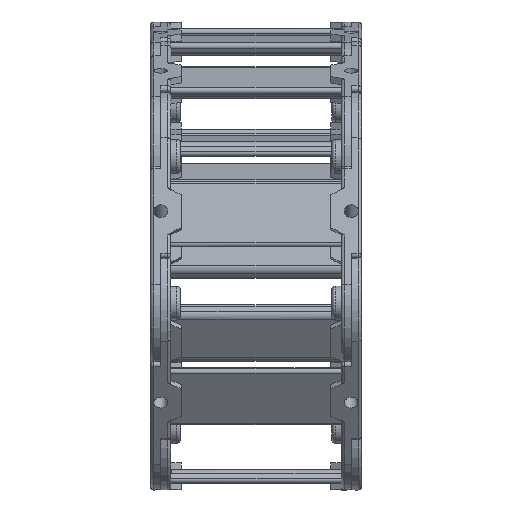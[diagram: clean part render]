
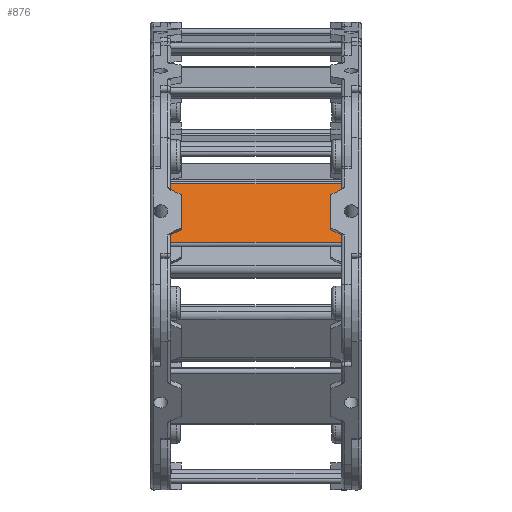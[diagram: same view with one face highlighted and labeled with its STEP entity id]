
A CAD part, front view. The second image highlights one B-rep face of the part: STEP entity #876.
In plain terms, the highlighted planar face has unit normal (0, -0.956, 0.292) as drawn and (0, 0, -1) by its records, which use the part's own axes.
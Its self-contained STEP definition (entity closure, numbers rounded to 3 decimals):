
#773=CARTESIAN_POINT('',(-64.6,-18.,-33.5));
#774=DIRECTION('',(0.0,0.0,-1.0));
#775=DIRECTION('',(-1.0,0.0,0.0));
#776=AXIS2_PLACEMENT_3D('',#773,#774,#775);
#777=PLANE('',#776);
#778=CARTESIAN_POINT('',(50.,13.464,-33.5));
#779=VERTEX_POINT('',#778);
#780=CARTESIAN_POINT('',(44.,10.0,-33.5));
#781=VERTEX_POINT('',#780);
#782=CARTESIAN_POINT('',(50.,13.464,-33.5));
#783=DIRECTION('',(-0.866,-0.5,0.0));
#784=VECTOR('',#783,6.928);
#785=LINE('',#782,#784);
#786=EDGE_CURVE('',#779,#781,#785,.T.);
#787=ORIENTED_EDGE('',*,*,#786,.T.);
#788=CARTESIAN_POINT('',(44.,-10.,-33.5));
#789=VERTEX_POINT('',#788);
#790=CARTESIAN_POINT('',(44.,10.0,-33.5));
#791=DIRECTION('',(0.0,-1.0,0.0));
#792=VECTOR('',#791,20.);
#793=LINE('',#790,#792);
#794=EDGE_CURVE('',#781,#789,#793,.T.);
#795=ORIENTED_EDGE('',*,*,#794,.T.);
#796=CARTESIAN_POINT('',(50.,-13.464,-33.5));
#797=VERTEX_POINT('',#796);
#798=CARTESIAN_POINT('',(44.,-10.,-33.5));
#799=DIRECTION('',(0.866,-0.5,0.0));
#800=VECTOR('',#799,6.928);
#801=LINE('',#798,#800);
#802=EDGE_CURVE('',#789,#797,#801,.T.);
#803=ORIENTED_EDGE('',*,*,#802,.T.);
#804=CARTESIAN_POINT('',(50.,-18.,-33.5));
#805=VERTEX_POINT('',#804);
#806=CARTESIAN_POINT('',(50.,-18.,-33.5));
#807=DIRECTION('',(0.0,1.0,0.0));
#808=VECTOR('',#807,4.536);
#809=LINE('',#806,#808);
#810=EDGE_CURVE('',#805,#797,#809,.T.);
#811=ORIENTED_EDGE('',*,*,#810,.F.);
#812=CARTESIAN_POINT('',(-50.,-18.,-33.5));
#813=VERTEX_POINT('',#812);
#814=CARTESIAN_POINT('',(50.,-18.,-33.5));
#815=DIRECTION('',(-1.0,0.0,0.0));
#816=VECTOR('',#815,100.0);
#817=LINE('',#814,#816);
#818=EDGE_CURVE('',#805,#813,#817,.T.);
#819=ORIENTED_EDGE('',*,*,#818,.T.);
#820=CARTESIAN_POINT('',(-50.,-13.464,-33.5));
#821=VERTEX_POINT('',#820);
#822=CARTESIAN_POINT('',(-50.,-13.464,-33.5));
#823=DIRECTION('',(0.0,-1.0,0.0));
#824=VECTOR('',#823,4.536);
#825=LINE('',#822,#824);
#826=EDGE_CURVE('',#821,#813,#825,.T.);
#827=ORIENTED_EDGE('',*,*,#826,.F.);
#828=CARTESIAN_POINT('',(-44.,-10.0,-33.5));
#829=VERTEX_POINT('',#828);
#830=CARTESIAN_POINT('',(-50.,-13.464,-33.5));
#831=DIRECTION('',(0.866,0.5,0.0));
#832=VECTOR('',#831,6.928);
#833=LINE('',#830,#832);
#834=EDGE_CURVE('',#821,#829,#833,.T.);
#835=ORIENTED_EDGE('',*,*,#834,.T.);
#836=CARTESIAN_POINT('',(-44.,10.,-33.5));
#837=VERTEX_POINT('',#836);
#838=CARTESIAN_POINT('',(-44.,-10.0,-33.5));
#839=DIRECTION('',(0.0,1.0,0.0));
#840=VECTOR('',#839,20.);
#841=LINE('',#838,#840);
#842=EDGE_CURVE('',#829,#837,#841,.T.);
#843=ORIENTED_EDGE('',*,*,#842,.T.);
#844=CARTESIAN_POINT('',(-50.,13.464,-33.5));
#845=VERTEX_POINT('',#844);
#846=CARTESIAN_POINT('',(-44.,10.,-33.5));
#847=DIRECTION('',(-0.866,0.5,0.0));
#848=VECTOR('',#847,6.928);
#849=LINE('',#846,#848);
#850=EDGE_CURVE('',#837,#845,#849,.T.);
#851=ORIENTED_EDGE('',*,*,#850,.T.);
#852=CARTESIAN_POINT('',(-50.,18.,-33.5));
#853=VERTEX_POINT('',#852);
#854=CARTESIAN_POINT('',(-50.,18.,-33.5));
#855=DIRECTION('',(0.0,-1.0,0.0));
#856=VECTOR('',#855,4.536);
#857=LINE('',#854,#856);
#858=EDGE_CURVE('',#853,#845,#857,.T.);
#859=ORIENTED_EDGE('',*,*,#858,.F.);
#860=CARTESIAN_POINT('',(50.,18.,-33.5));
#861=VERTEX_POINT('',#860);
#862=CARTESIAN_POINT('',(50.,18.,-33.5));
#863=DIRECTION('',(-1.0,0.0,0.0));
#864=VECTOR('',#863,100.0);
#865=LINE('',#862,#864);
#866=EDGE_CURVE('',#861,#853,#865,.T.);
#867=ORIENTED_EDGE('',*,*,#866,.F.);
#868=CARTESIAN_POINT('',(50.,13.464,-33.5));
#869=DIRECTION('',(0.0,1.0,0.0));
#870=VECTOR('',#869,4.536);
#871=LINE('',#868,#870);
#872=EDGE_CURVE('',#779,#861,#871,.T.);
#873=ORIENTED_EDGE('',*,*,#872,.F.);
#874=EDGE_LOOP('',(#787,#795,#803,#811,#819,#827,#835,#843,#851,#859,#867,#873));
#875=FACE_OUTER_BOUND('',#874,.T.);
#876=ADVANCED_FACE('',(#875),#777,.T.);
